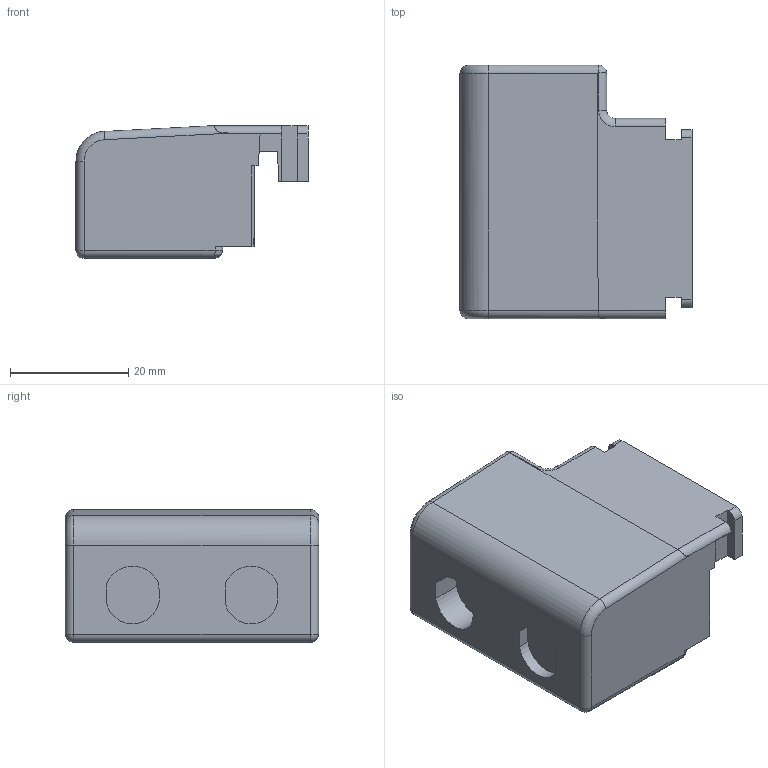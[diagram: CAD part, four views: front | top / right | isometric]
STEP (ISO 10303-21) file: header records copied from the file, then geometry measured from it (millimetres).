
FILE_DESCRIPTION((''),'2;1');
FILE_NAME('ACU_SC_SR_97_PRI','2016-06-06T',('Elon.Guo'),(''),'PRO/ENGINEER BY PARAMETRIC TECHNOLOGY CORPORATION, 2015200','PRO/ENGINEER BY PARAMETRIC TECHNOLOGY CORPORATION, 2015200','');
FILE_SCHEMA(('AUTOMOTIVE_DESIGN { 1 0 10303 214 1 1 1 1 }'));
Length unit declared in the file: millimetre
Products named in the file (1): ACU_SC_SR_97_PRI
Bounding box: 39.19 x 42.81 x 22.39 mm (x, y, z)
Volume: 21941.2 mm3; surface area: 7896.9 mm2
Topology: 1 solids, 5 shells, 133 faces, 334 edges, 211 vertices
Faces by surface type: plane 87, cylinder 21, extrusion 17, sphere 4, torus 3, bspline 1
Entity records: 5963 total; most frequent: CARTESIAN_POINT 1444, ORIENTED_EDGE 660, DIRECTION 574, PRESENTATION_STYLE_ASSIGNMENT 336, STYLED_ITEM 336, CURVE_STYLE 334, EDGE_CURVE 334, VECTOR 272
